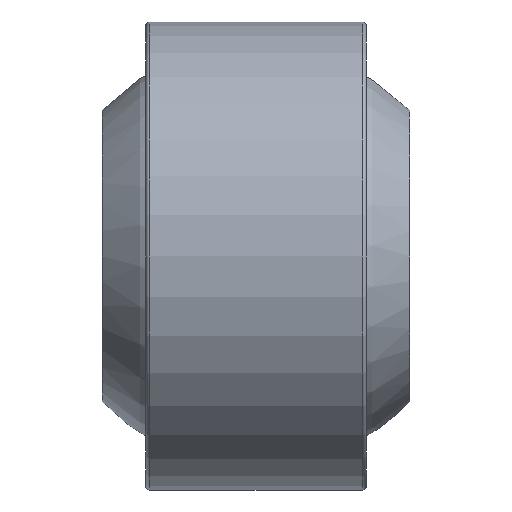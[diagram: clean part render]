
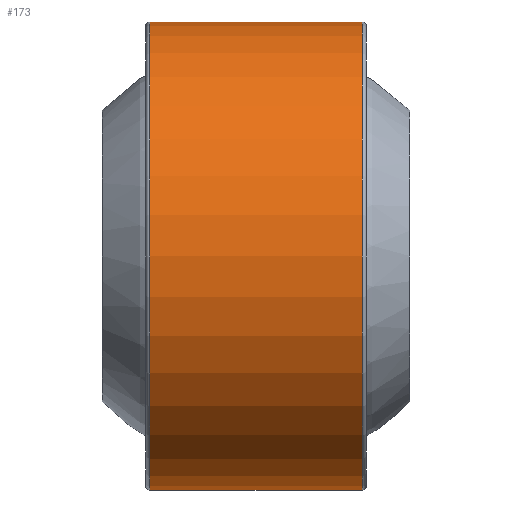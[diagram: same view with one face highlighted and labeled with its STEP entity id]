
A CAD part, front view. The second image highlights one B-rep face of the part: STEP entity #173.
In plain terms, the highlighted cylindrical face has radius 17.5 mm (diameter 35 mm), a full revolution.
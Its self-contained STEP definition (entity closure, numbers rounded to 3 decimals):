
#173 = ADVANCED_FACE( '', ( #195, #196, #197 ), #198, .T. );
#195 = FACE_OUTER_BOUND( '', #231, .T. );
#196 = FACE_BOUND( '', #232, .T. );
#197 = FACE_OUTER_BOUND( '', #233, .T. );
#198 = CYLINDRICAL_SURFACE( '', #234, 17.5 );
#231 = EDGE_LOOP( '', ( #274 ) );
#232 = EDGE_LOOP( '', ( #275 ) );
#233 = EDGE_LOOP( '', ( #276 ) );
#234 = AXIS2_PLACEMENT_3D( '', #277, #278, #279 );
#274 = ORIENTED_EDGE( '', *, *, #316, .T. );
#275 = ORIENTED_EDGE( '', *, *, #317, .T. );
#276 = ORIENTED_EDGE( '', *, *, #314, .F. );
#277 = CARTESIAN_POINT( '', ( 8.25, 0., 0. ) );
#278 = DIRECTION( '', ( -1., 0., 0. ) );
#279 = DIRECTION( '', ( 0., 0., -1. ) );
#314 = EDGE_CURVE( '', #330, #330, #331, .T. );
#316 = EDGE_CURVE( '', #334, #334, #335, .T. );
#317 = EDGE_CURVE( '', #336, #336, #337, .T. );
#330 = VERTEX_POINT( '', #354 );
#331 = CIRCLE( '', #355, 17.5 );
#334 = VERTEX_POINT( '', #358 );
#335 = CIRCLE( '', #359, 17.5 );
#336 = VERTEX_POINT( '', #360 );
#337 = B_SPLINE_CURVE_WITH_KNOTS( '', 3, ( #361, #362, #363, #364, #365, #366, #367, #368, #369, #370, #371, #372, #373, #374, #375, #376, #377, #378, #379, #380, #381, #382, #383, #384, #385, #386, #387, #388, #389, #390, #391, #392, #393, #394 ), .UNSPECIFIED., .T., .F., ( 2, 2, 2, 2, 2, 2, 2, 2, 2, 2, 2, 2, 2, 2, 2, 2, 2, 2, 2 ), ( 0., 0., 0., 0.001, 0.001, 0.002, 0.002, 0.003, 0.003, 0.003, 0.004, 0.004, 0.005, 0.005, 0.006, 0.006, 0.006, 0.007, 0.007 ), .UNSPECIFIED. );
#354 = CARTESIAN_POINT( '', ( 7.95, 0., -17.5 ) );
#355 = AXIS2_PLACEMENT_3D( '', #415, #416, #417 );
#358 = CARTESIAN_POINT( '', ( -7.95, 0., -17.5 ) );
#359 = AXIS2_PLACEMENT_3D( '', #421, #422, #423 );
#360 = CARTESIAN_POINT( '', ( 1.1, 17.5, 0. ) );
#361 = CARTESIAN_POINT( '', ( 1.1, 17.5, -0.145 ) );
#362 = CARTESIAN_POINT( '', ( 1.1, 17.5, 0.145 ) );
#363 = CARTESIAN_POINT( '', ( 1.071, 17.498, 0.288 ) );
#364 = CARTESIAN_POINT( '', ( 0.961, 17.492, 0.554 ) );
#365 = CARTESIAN_POINT( '', ( 0.879, 17.487, 0.676 ) );
#366 = CARTESIAN_POINT( '', ( 0.676, 17.478, 0.879 ) );
#367 = CARTESIAN_POINT( '', ( 0.554, 17.474, 0.961 ) );
#368 = CARTESIAN_POINT( '', ( 0.289, 17.467, 1.071 ) );
#369 = CARTESIAN_POINT( '', ( 0.144, 17.465, 1.1 ) );
#370 = CARTESIAN_POINT( '', ( -0.143, 17.465, 1.1 ) );
#371 = CARTESIAN_POINT( '', ( -0.287, 17.467, 1.072 ) );
#372 = CARTESIAN_POINT( '', ( -0.554, 17.474, 0.961 ) );
#373 = CARTESIAN_POINT( '', ( -0.675, 17.478, 0.881 ) );
#374 = CARTESIAN_POINT( '', ( -0.88, 17.487, 0.676 ) );
#375 = CARTESIAN_POINT( '', ( -0.961, 17.492, 0.555 ) );
#376 = CARTESIAN_POINT( '', ( -1.071, 17.498, 0.288 ) );
#377 = CARTESIAN_POINT( '', ( -1.1, 17.5, 0.144 ) );
#378 = CARTESIAN_POINT( '', ( -1.1, 17.5, -0.143 ) );
#379 = CARTESIAN_POINT( '', ( -1.071, 17.498, -0.288 ) );
#380 = CARTESIAN_POINT( '', ( -0.962, 17.492, -0.553 ) );
#381 = CARTESIAN_POINT( '', ( -0.88, 17.487, -0.676 ) );
#382 = CARTESIAN_POINT( '', ( -0.677, 17.478, -0.879 ) );
#383 = CARTESIAN_POINT( '', ( -0.555, 17.474, -0.96 ) );
#384 = CARTESIAN_POINT( '', ( -0.289, 17.467, -1.071 ) );
#385 = CARTESIAN_POINT( '', ( -0.146, 17.465, -1.1 ) );
#386 = CARTESIAN_POINT( '', ( 0.144, 17.465, -1.1 ) );
#387 = CARTESIAN_POINT( '', ( 0.287, 17.467, -1.072 ) );
#388 = CARTESIAN_POINT( '', ( 0.554, 17.474, -0.961 ) );
#389 = CARTESIAN_POINT( '', ( 0.676, 17.478, -0.88 ) );
#390 = CARTESIAN_POINT( '', ( 0.879, 17.487, -0.677 ) );
#391 = CARTESIAN_POINT( '', ( 0.961, 17.492, -0.554 ) );
#392 = CARTESIAN_POINT( '', ( 1.071, 17.498, -0.29 ) );
#393 = CARTESIAN_POINT( '', ( 1.1, 17.5, -0.145 ) );
#394 = CARTESIAN_POINT( '', ( 1.1, 17.5, 0.145 ) );
#415 = CARTESIAN_POINT( '', ( 7.95, 0., 0. ) );
#416 = DIRECTION( '', ( 1., 0., 0. ) );
#417 = DIRECTION( '', ( 0., 0., -1. ) );
#421 = CARTESIAN_POINT( '', ( -7.95, 0., 0. ) );
#422 = DIRECTION( '', ( 1., 0., 0. ) );
#423 = DIRECTION( '', ( 0., 0., -1. ) );
